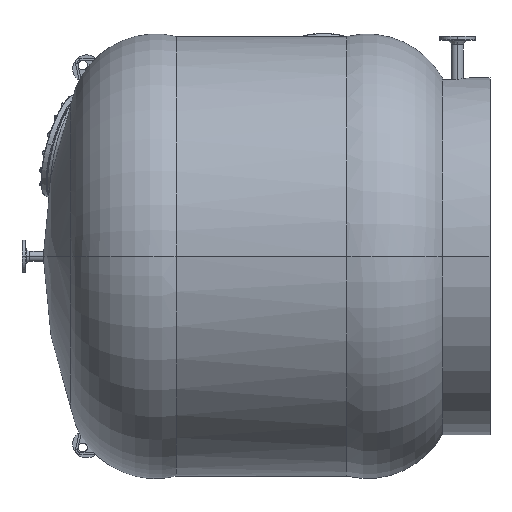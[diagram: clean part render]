
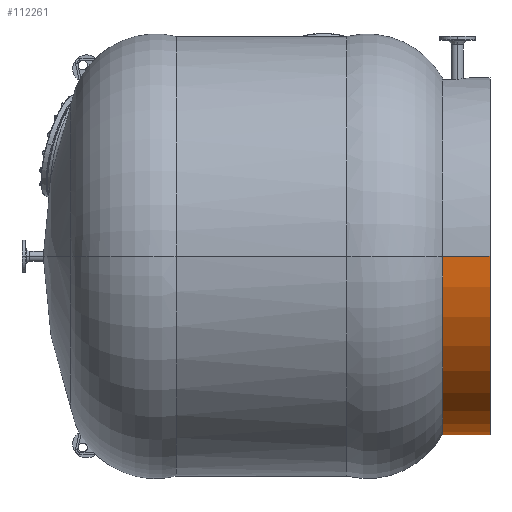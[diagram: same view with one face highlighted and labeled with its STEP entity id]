
A CAD part, left-side view. The second image highlights one B-rep face of the part: STEP entity #112261.
In plain terms, the highlighted cylindrical face has radius 820 mm (diameter 1640 mm), a partial arc.
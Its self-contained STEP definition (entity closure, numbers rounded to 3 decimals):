
#2693 = CARTESIAN_POINT ( 'NONE',  ( 30., 1.8, -850. ) ) ;
#7415 = CARTESIAN_POINT ( 'NONE',  ( 30., 1.8, -850. ) ) ;
#7982 = ORIENTED_EDGE ( 'NONE', *, *, #83870, .F. ) ;
#8278 = CARTESIAN_POINT ( 'NONE',  ( 850., 0., -850. ) ) ;
#9502 = CIRCLE ( 'NONE', #74540, 820. ) ;
#10796 = DIRECTION ( 'NONE',  ( 0., 1., 0. ) ) ;
#19698 = VERTEX_POINT ( 'NONE', #64528 ) ;
#20279 = ORIENTED_EDGE ( 'NONE', *, *, #57481, .T. ) ;
#21185 = DIRECTION ( 'NONE',  ( 1., 0., 0. ) ) ;
#22326 = DIRECTION ( 'NONE',  ( 0., 1., 0. ) ) ;
#23462 = EDGE_LOOP ( 'NONE', ( #62731, #20279, #79995, #7982 ) ) ;
#25790 = VERTEX_POINT ( 'NONE', #108657 ) ;
#45069 = VERTEX_POINT ( 'NONE', #7415 ) ;
#47272 = AXIS2_PLACEMENT_3D ( 'NONE', #67709, #22326, #21185 ) ;
#57481 = EDGE_CURVE ( 'NONE', #45069, #25790, #110358, .T. ) ;
#60671 = VECTOR ( 'NONE', #85654, 1000. ) ;
#61235 = FACE_OUTER_BOUND ( 'NONE', #23462, .T. ) ;
#62731 = ORIENTED_EDGE ( 'NONE', *, *, #65238, .T. ) ;
#64528 = CARTESIAN_POINT ( 'NONE',  ( 1670., 218.05, -850. ) ) ;
#65238 = EDGE_CURVE ( 'NONE', #81751, #45069, #9502, .T. ) ;
#67709 = CARTESIAN_POINT ( 'NONE',  ( 850., 218.05, -850. ) ) ;
#73233 = CIRCLE ( 'NONE', #47272, 820. ) ;
#74540 = AXIS2_PLACEMENT_3D ( 'NONE', #90023, #10796, #91706 ) ;
#75139 = CARTESIAN_POINT ( 'NONE',  ( 1670., 1.8, -850. ) ) ;
#75712 = LINE ( 'NONE', #75139, #60671 ) ;
#79995 = ORIENTED_EDGE ( 'NONE', *, *, #96125, .F. ) ;
#81052 = DIRECTION ( 'NONE',  ( 0., -1., 0. ) ) ;
#81751 = VERTEX_POINT ( 'NONE', #96395 ) ;
#83870 = EDGE_CURVE ( 'NONE', #81751, #19698, #75712, .T. ) ;
#85654 = DIRECTION ( 'NONE',  ( 0., 1., 0. ) ) ;
#90023 = CARTESIAN_POINT ( 'NONE',  ( 850., 1.8, -850. ) ) ;
#91706 = DIRECTION ( 'NONE',  ( 1., 0., 0. ) ) ;
#96125 = EDGE_CURVE ( 'NONE', #19698, #25790, #73233, .T. ) ;
#96395 = CARTESIAN_POINT ( 'NONE',  ( 1670., 1.8, -850. ) ) ;
#99937 = VECTOR ( 'NONE', #102235, 1000. ) ;
#102235 = DIRECTION ( 'NONE',  ( 0., 1., 0. ) ) ;
#107746 = DIRECTION ( 'NONE',  ( 1., 0., 0. ) ) ;
#108130 = AXIS2_PLACEMENT_3D ( 'NONE', #8278, #81052, #107746 ) ;
#108657 = CARTESIAN_POINT ( 'NONE',  ( 30., 218.05, -850. ) ) ;
#110358 = LINE ( 'NONE', #2693, #99937 ) ;
#112261 = ADVANCED_FACE ( 'NONE', ( #61235 ), #113023, .T. ) ;
#113023 = CYLINDRICAL_SURFACE ( 'NONE', #108130, 820. ) ;
